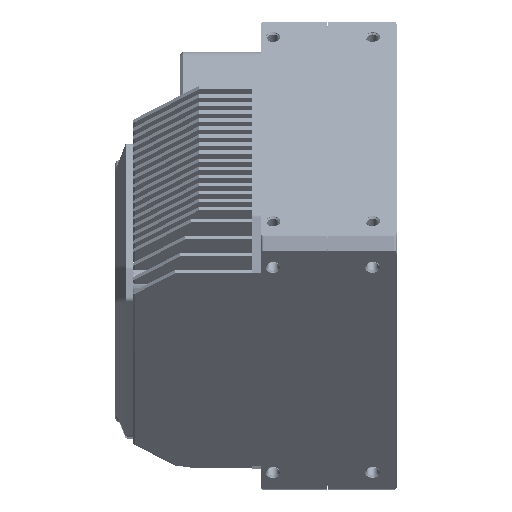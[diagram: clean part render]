
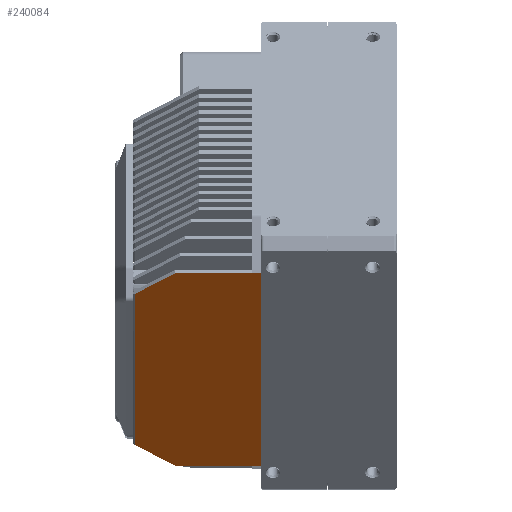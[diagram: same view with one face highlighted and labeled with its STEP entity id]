
A CAD part, left-side view. The second image highlights one B-rep face of the part: STEP entity #240084.
In plain terms, the highlighted planar face has unit normal (-0.744, 0, -0.668).
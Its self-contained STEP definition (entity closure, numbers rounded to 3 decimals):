
#228769=DIRECTION('',(0.,-1.,0.));
#228770=VECTOR('',#228769,2.5);
#228771=CARTESIAN_POINT('',(192.404,41.25,-105.717));
#228772=LINE('',#228771,#228770);
#228773=DIRECTION('',(0.38,0.822,-0.424));
#228774=VECTOR('',#228773,14.049);
#228775=CARTESIAN_POINT('',(142.287,63.7,-49.92));
#228776=LINE('',#228775,#228774);
#228777=DIRECTION('',(0.,1.,0.));
#228778=VECTOR('',#228777,2.5);
#228779=CARTESIAN_POINT('',(142.287,38.75,-49.92));
#228780=LINE('',#228779,#228778);
#228781=DIRECTION('',(-0.668,0.,0.744));
#228782=VECTOR('',#228781,75.);
#228783=CARTESIAN_POINT('',(192.404,38.75,-105.717));
#228784=LINE('',#228783,#228782);
#228785=DIRECTION('',(0.38,-0.822,-0.424));
#228786=VECTOR('',#228785,14.049);
#228787=CARTESIAN_POINT('',(187.059,75.25,
-99.767));
#228788=LINE('',#228787,#228786);
#228840=DIRECTION('',(0.668,0.,
-0.744));
#228841=VECTOR('',#228840,59.005);
#228842=CARTESIAN_POINT('',(147.631,75.25,
-55.87));
#228843=LINE('',#228842,#228841);
#228868=DIRECTION('',(0.,1.,0.));
#228869=VECTOR('',#228868,22.45);
#228870=CARTESIAN_POINT('',(192.404,41.25,-105.717));
#228871=LINE('',#228870,#228869);
#228892=DIRECTION('',(0.,1.,0.));
#228893=VECTOR('',#228892,22.45);
#228894=CARTESIAN_POINT('',(142.287,41.25,-49.92));
#228895=LINE('',#228894,#228893);
#237521=CARTESIAN_POINT('',(142.287,41.25,-49.92));
#237522=VERTEX_POINT('',#237521);
#237527=CARTESIAN_POINT('',(192.404,41.25,-105.717));
#237528=VERTEX_POINT('',#237527);
#238488=CARTESIAN_POINT('',(142.287,38.75,-49.92));
#238489=VERTEX_POINT('',#238488);
#238490=CARTESIAN_POINT('',(192.404,38.75,-105.717));
#238491=VERTEX_POINT('',#238490);
#238516=CARTESIAN_POINT('',(142.287,63.7,-49.92));
#238517=CARTESIAN_POINT('',(147.631,75.25,
-55.87));
#238518=VERTEX_POINT('',#238516);
#238519=VERTEX_POINT('',#238517);
#238520=CARTESIAN_POINT('',(192.404,63.7,-105.717));
#238521=VERTEX_POINT('',#238520);
#238522=CARTESIAN_POINT('',(187.059,75.25,
-99.767));
#238523=VERTEX_POINT('',#238522);
#240062=CARTESIAN_POINT('',(167.345,57.,-77.819));
#240063=DIRECTION('',(0.744,0.,0.668));
#240064=DIRECTION('',(0.,-1.,0.));
#240065=AXIS2_PLACEMENT_3D('',#240062,#240063,#240064);
#240066=PLANE('',#240065);
#240068=ORIENTED_EDGE('',*,*,#240067,.F.);
#240070=ORIENTED_EDGE('',*,*,#240069,.F.);
#240072=ORIENTED_EDGE('',*,*,#240071,.F.);
#240074=ORIENTED_EDGE('',*,*,#240073,.F.);
#240075=ORIENTED_EDGE('',*,*,#240055,.F.);
#240077=ORIENTED_EDGE('',*,*,#240076,.T.);
#240079=ORIENTED_EDGE('',*,*,#240078,.F.);
#240081=ORIENTED_EDGE('',*,*,#240080,.F.);
#240082=EDGE_LOOP('',(#240068,#240070,#240072,#240074,#240075,#240077,#240079,
#240081));
#240083=FACE_OUTER_BOUND('',#240082,.F.);
#240084=ADVANCED_FACE('',(#240083),#240066,.F.);
#240055=EDGE_CURVE('',#237528,#238491,#228772,.T.);
#240067=EDGE_CURVE('',#238518,#238519,#228776,.T.);
#240069=EDGE_CURVE('',#237522,#238518,#228895,.T.);
#240071=EDGE_CURVE('',#238489,#237522,#228780,.T.);
#240073=EDGE_CURVE('',#238491,#238489,#228784,.T.);
#240076=EDGE_CURVE('',#237528,#238521,#228871,.T.);
#240078=EDGE_CURVE('',#238523,#238521,#228788,.T.);
#240080=EDGE_CURVE('',#238519,#238523,#228843,.T.);
